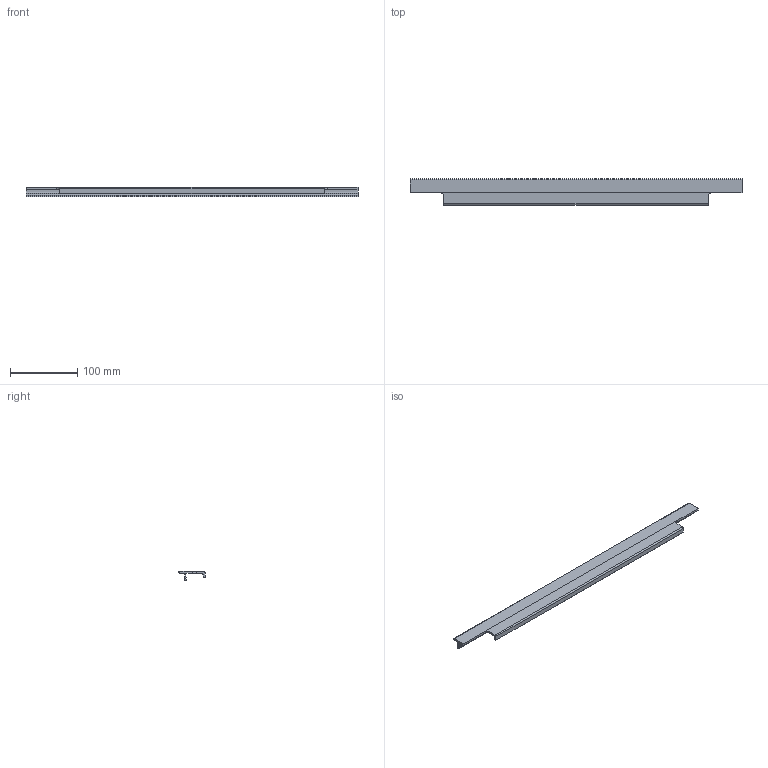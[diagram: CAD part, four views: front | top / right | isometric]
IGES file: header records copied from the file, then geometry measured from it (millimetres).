
Start section: Data from Parasolid IGES Translator 15.0.47, Copyright(c) 2006 Siemens P LM Software. All Rights Reserved.
Global section: file name: 9105821.igs; native system:  By UGS Corp.; preprocessor: XPlus GENERIC/IGES 3.0; author: Noname; organization: Noname; date: 20140122.180048; units: millimetre
Bounding box: 495 x 39 x 14 mm (x, y, z)
Surface area: 53556.3 mm2 (no closed solid volume)
Topology: 0 solids, 0 shells, 40 faces, 224 edges, 224 vertices
Faces by surface type: extrusion 30, revolution 10
